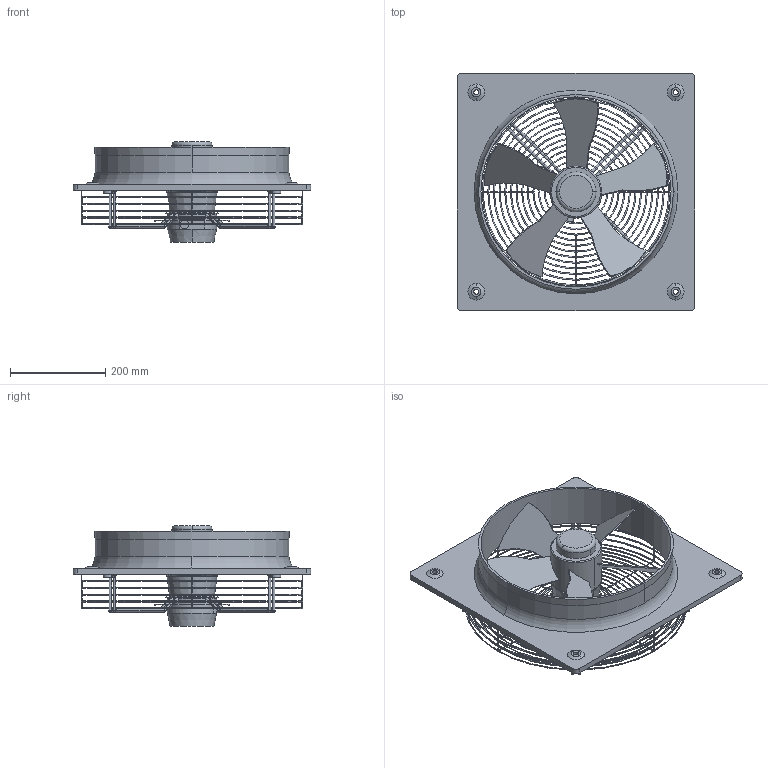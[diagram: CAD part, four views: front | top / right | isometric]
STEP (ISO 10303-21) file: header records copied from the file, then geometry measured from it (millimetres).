
FILE_DESCRIPTION(('STEP AP214'),'1');
FILE_NAME('fan_5110981200.stp','2017-06-30T15:25:27',('TraceParts'),('TraceParts S.A.'),'Spatial InterOp 3D',' ',' ');
FILE_SCHEMA(('automotive_design'));
Length unit declared in the file: millimetre
Products named in the file (1): fan_5110981200
Bounding box: 500 x 500 x 212 mm (x, y, z)
Volume: 4044269.7 mm3; surface area: 877143.7 mm2
Topology: 4 solids, 4 shells, 504 faces, 1432 edges, 789 vertices
Faces by surface type: cylinder 254, torus 152, plane 50, cone 24, sphere 24
Entity records: 34383 total; most frequent: CARTESIAN_POINT 18134, ORIENTED_EDGE 2816, DIRECTION 2315, EDGE_CURVE 1408, AXIS2_PLACEMENT_3D 994, VERTEX_POINT 789, B_SPLINE_CURVE_WITH_KNOTS 592, EDGE_LOOP 563
